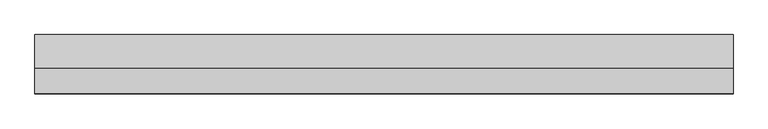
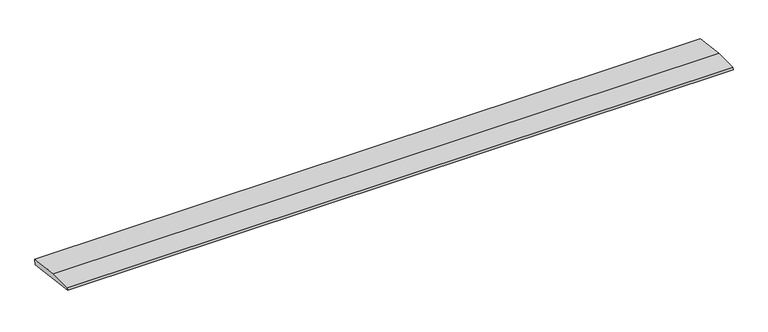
"""IFC4 building model written with IfcOpenShell, lengths in millimetres: beam geometry, weatherboad : weatherboad."""

import ifcopenshell
import ifcopenshell.guid

model = None  # the IFC model being written
_history = None  # IfcOwnerHistory: only IFC2X3 demands one
_inside = {}  # id of a spatial element -> (the spatial element, [elements in it])
_under = {}  # id of a project, library or spatial element -> (it, [spatial elements below it])
_declared = {}  # id of a project -> (the project, [libraries it declares])
_typed = {}  # id of a type object -> (the type object, [elements of that type])
_made_of = {}  # id of a material, layer set ... -> (it, [elements and type objects made of it])


def new_model(schema):
    """Start an empty IFC model of exactly this schema.

    Asked for "IFC4X3", IfcOpenShell would pick the latest addendum, in which some entities
    have other attributes; the version numbers below select the first issue.
    IFC2X3 requires an IfcOwnerHistory on every rooted entity: one is made here for all.
    """
    global model, _history
    if schema == "IFC4X3":
        model = ifcopenshell.file(schema_version=(4, 3, 0, 0))
    else:
        model = ifcopenshell.file(schema=schema)
    _inside.clear()
    _under.clear()
    _declared.clear()
    _typed.clear()
    _made_of.clear()
    _history = None
    if model.schema == "IFC2X3":
        org = make("IfcOrganization", Name="unknown")
        user = make(
            "IfcPersonAndOrganization",
            ThePerson=make("IfcPerson", FamilyName="unknown"),
            TheOrganization=org,
        )
        app = make(
            "IfcApplication",
            ApplicationDeveloper=org,
            Version="unknown",
            ApplicationFullName="unknown",
            ApplicationIdentifier="unknown",
        )
        _history = make(
            "IfcOwnerHistory",
            OwningUser=user,
            OwningApplication=app,
            ChangeAction="ADDED",
            CreationDate=0,
        )
    return model


def make(cls, **values):
    """One entity of the class cls with the attributes given. An attribute that is None is left unset."""
    return model.create_entity(
        cls, **{name: value for name, value in values.items() if value is not None}
    )


def rooted(cls, **values):
    """An entity with a GlobalId (a new one), such as an element, a storey or a relation."""
    return make(cls, GlobalId=ifcopenshell.guid.new(), OwnerHistory=_history, **values)


def si_unit(unit_type, name, prefix=None):
    """IfcSIUnit, for example si_unit("LENGTHUNIT", "METRE", prefix="MILLI")."""
    return make("IfcSIUnit", UnitType=unit_type, Prefix=prefix, Name=name)


def assignment(units):
    """IfcUnitAssignment: the units of a project."""
    return None if units is None else make("IfcUnitAssignment", Units=units)


def point(xyz):
    """IfcCartesianPoint."""
    return None if xyz is None else make("IfcCartesianPoint", Coordinates=xyz)


def direction(xyz):
    """IfcDirection."""
    return None if xyz is None else make("IfcDirection", DirectionRatios=xyz)


def frame(location, z_axis=None, x_axis=None):
    """IfcAxis2Placement3D, a coordinate frame: its origin and axes. An axis left out is left unset."""
    return make(
        "IfcAxis2Placement3D",
        Location=point(location),
        Axis=direction(z_axis),
        RefDirection=direction(x_axis),
    )


def origin():
    """The frame at (0, 0, 0) with its axes left unset."""
    return frame((0.0, 0.0, 0.0))


def place(relative_to, where):
    """IfcLocalPlacement: puts the frame where relative to a parent placement (None: the world)."""
    return make(
        "IfcLocalPlacement", PlacementRelTo=relative_to, RelativePlacement=where
    )


def context(
    kind, dimensions, precision=None, world=None, true_north=None, identifier=None
):
    """IfcGeometricRepresentationContext, for example the 3D "Model" context."""
    return make(
        "IfcGeometricRepresentationContext",
        ContextIdentifier=identifier,
        ContextType=kind,
        CoordinateSpaceDimension=dimensions,
        Precision=precision,
        WorldCoordinateSystem=world,
        TrueNorth=true_north,
    )


def project(units=None, contexts=None):
    """IfcProject with its units and contexts."""
    return rooted(
        "IfcProject",
        Name="project",
        RepresentationContexts=contexts,
        UnitsInContext=assignment(units),
    )


def spatial(cls, under=None, at=None, **own):
    """A site, building, storey or space (cls), placed at a placement, below another one or the project."""
    s = rooted(cls, ObjectPlacement=at, **own)
    if under is not None:
        _under.setdefault(under.id(), (under, []))[1].append(s)
    return s


def polyline(points):
    """IfcPolyline through the points."""
    return make("IfcPolyline", Points=[point(p) for p in points])


def outline(outer, holes=None, kind="AREA"):
    """IfcArbitraryClosedProfileDef: a profile drawn as a closed curve; with holes, ...WithVoids."""
    if holes is None:
        return make("IfcArbitraryClosedProfileDef", ProfileType=kind, OuterCurve=outer)
    return make(
        "IfcArbitraryProfileDefWithVoids",
        ProfileType=kind,
        OuterCurve=outer,
        InnerCurves=holes,
    )


def extrude(swept, where, along, depth):
    """IfcExtrudedAreaSolid: the profile swept, set in the frame where, extruded along a direction by depth."""
    return make(
        "IfcExtrudedAreaSolid",
        SweptArea=swept,
        Position=where,
        ExtrudedDirection=direction(along),
        Depth=depth,
    )


def shape(context_of_items, identifier, shape_type, items):
    """IfcShapeRepresentation: the items that make up one representation, for example the "Body"."""
    return make(
        "IfcShapeRepresentation",
        ContextOfItems=context_of_items,
        RepresentationIdentifier=identifier,
        RepresentationType=shape_type,
        Items=items,
    )


def source(mapping_origin, context_of_items, identifier, shape_type, items):
    """IfcRepresentationMap: a shape defined once, which mapped items show again and again."""
    return make(
        "IfcRepresentationMap",
        MappingOrigin=mapping_origin,
        MappedRepresentation=shape(context_of_items, identifier, shape_type, items),
    )


def transform(
    local_origin,
    x_axis=None,
    y_axis=None,
    z_axis=None,
    scale=None,
    scale2=None,
    scale3=None,
    uniform=True,
):
    """IfcCartesianTransformationOperator3D, or its non-uniform kind. x_axis, y_axis, z_axis: its Axis1, 2, 3."""
    if uniform:
        return make(
            "IfcCartesianTransformationOperator3D",
            Axis1=direction(x_axis),
            Axis2=direction(y_axis),
            LocalOrigin=point(local_origin),
            Scale=scale,
            Axis3=direction(z_axis),
        )
    return make(
        "IfcCartesianTransformationOperator3DnonUniform",
        Axis1=direction(x_axis),
        Axis2=direction(y_axis),
        LocalOrigin=point(local_origin),
        Scale=scale,
        Axis3=direction(z_axis),
        Scale2=scale2,
        Scale3=scale3,
    )


def mapped(mapping_source, mapping_target):
    """IfcMappedItem: shows the shape of a source again, moved by a transform."""
    return make(
        "IfcMappedItem", MappingSource=mapping_source, MappingTarget=mapping_target
    )


def made_of(thing, what):
    """Note that an element or type object is made of a material, layer set ...; save() writes the relation."""
    if what is not None:
        _made_of.setdefault(what.id(), (what, []))[1].append(thing)
    return thing


def element(
    cls,
    number,
    at=None,
    inside=None,
    cuts=None,
    type_object=None,
    material=None,
    context=None,
    identifier="Body",
    shape_type=None,
    held_by="IfcProductDefinitionShape",
    body=None,
    shapes=None,
    **own,
):
    """One element of the class cls, such as IfcWall. Its Tag is "e" and its number.

    at: its placement. inside: the storey or other place that contains it. cuts: it is an
    opening in that element (IfcRelVoidsElement). A single representation is given by context,
    identifier, shape_type and body (its items); several are given by shapes. held_by: the class
    of the entity that holds the representations. save() writes the other relations.
    """
    e = rooted(cls, Tag="e%d" % number, ObjectPlacement=at, **own)
    if body is not None:
        shapes = [shape(context, identifier, shape_type, body)]
    if shapes is not None:
        e.Representation = make(held_by, Representations=shapes)
    if inside is not None:
        _inside.setdefault(inside.id(), (inside, []))[1].append(e)
    if cuts is not None:
        rooted(
            "IfcRelVoidsElement", RelatingBuildingElement=cuts, RelatedOpeningElement=e
        )
    if type_object is not None:
        _typed.setdefault(type_object.id(), (type_object, []))[1].append(e)
    return made_of(e, material)


def aggregate(whole, parts):
    """IfcRelAggregates: a whole, such as a stair, and the parts it consists of."""
    return rooted("IfcRelAggregates", RelatingObject=whole, RelatedObjects=parts)


def save(model, path):
    """Write the relations noted so far, then the file.

    IfcRelAggregates (storeys below a building ...), IfcRelContainedInSpatialStructure (elements
    in a storey), IfcRelDefinesByType, IfcRelAssociatesMaterial and IfcRelDeclares: one each for
    every whole, place, type object, material and project.
    """
    for whole, parts in _under.values():
        aggregate(whole, parts)
    for where, things in _inside.values():
        rooted(
            "IfcRelContainedInSpatialStructure",
            RelatedElements=things,
            RelatingStructure=where,
        )
    for kind, things in _typed.values():
        rooted("IfcRelDefinesByType", RelatedObjects=things, RelatingType=kind)
    for what, things in _made_of.values():
        rooted("IfcRelAssociatesMaterial", RelatedObjects=things, RelatingMaterial=what)
    for by, libraries in _declared.values():
        rooted("IfcRelDeclares", RelatingContext=by, RelatedDefinitions=libraries)
    model.write(path)


def beam_6b37ad4d(model_context):
    return source(origin(), model_context, "Body", "SweptSolid", [
        extrude(outline(polyline([(0.0, -9.143159), (1.1226388, 0.0), (79.0749747, 0.0), (180.9387048, -12.5072934), (178.6231873, -31.3656703), (0.0, -9.143159)])), frame((-1066.4640609, 0.0, 0.0), z_axis=(1.0, 0.0, 0.0), x_axis=(0.0, 1.0, 0.0)), (0.0, 0.0, 1.0), 2132.9281217),
    ])


if __name__ == "__main__":
    model = new_model("IFC4")
    model_context = context("Model", 3, world=origin())
    ifc_project = project(units=[si_unit("LENGTHUNIT", "METRE", prefix="MILLI")], contexts=[model_context])
    site = spatial("IfcSite", under=ifc_project)
    building = spatial("IfcBuilding", under=site)
    placement = place(None, origin())
    beam_shape = beam_6b37ad4d(model_context)
    element("IfcBeam", 1, ObjectType="weatherboad : weatherboad", at=placement, inside=building, context=model_context, shape_type="MappedRepresentation", body=[
        mapped(beam_shape, transform((0.0, 0.0, 0.0), x_axis=(1.0, 0.0, 0.0), y_axis=(0.0, 1.0, 0.0), z_axis=(0.0, 0.0, 1.0))),
    ])
    save(model, "model.ifc")
